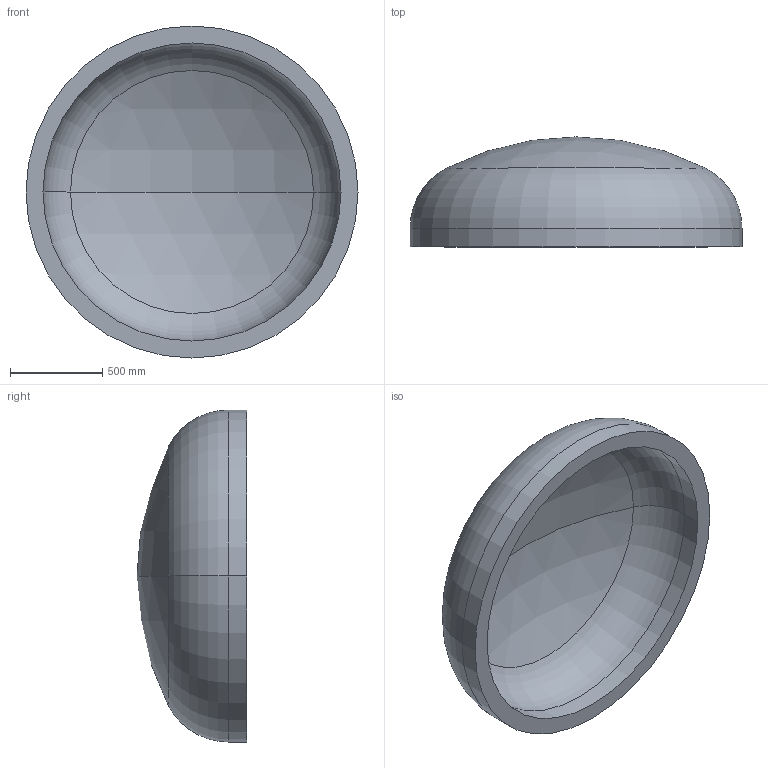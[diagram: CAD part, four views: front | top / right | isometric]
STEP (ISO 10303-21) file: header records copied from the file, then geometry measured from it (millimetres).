
FILE_DESCRIPTION (( 'STEP AP203' ), '1' );
FILE_NAME ('DIN 28013 Korbbogenform_-_Boden DIN 28013 - 1800 x 100 - I - s=92.step', '2016-07-01T12:43:28', ( '' ), ( '' ), 'SwSTEP 2.0', 'SolidWorks 2013', '' );
FILE_SCHEMA (( 'CONFIG_CONTROL_DESIGN' ));
Length unit declared in the file: millimetre
Products named in the file (1): DIN 28013 Korbbogenform_-_Boden DIN 28013 - 1800 x 100 - I - s=92
Bounding box: 1800 x 596.08 x 1800 mm (x, y, z)
Volume: 352519071.8 mm3; surface area: 8174840.3 mm2
Topology: 1 solids, 1 shells, 13 faces, 24 edges, 14 vertices
Faces by surface type: torus 4, cylinder 4, sphere 4, plane 1
Entity records: 407 total; most frequent: DIRECTION 72, CARTESIAN_POINT 52, ORIENTED_EDGE 48, AXIS2_PLACEMENT_3D 34, EDGE_CURVE 24, CIRCLE 20, EDGE_LOOP 14, VERTEX_POINT 14
